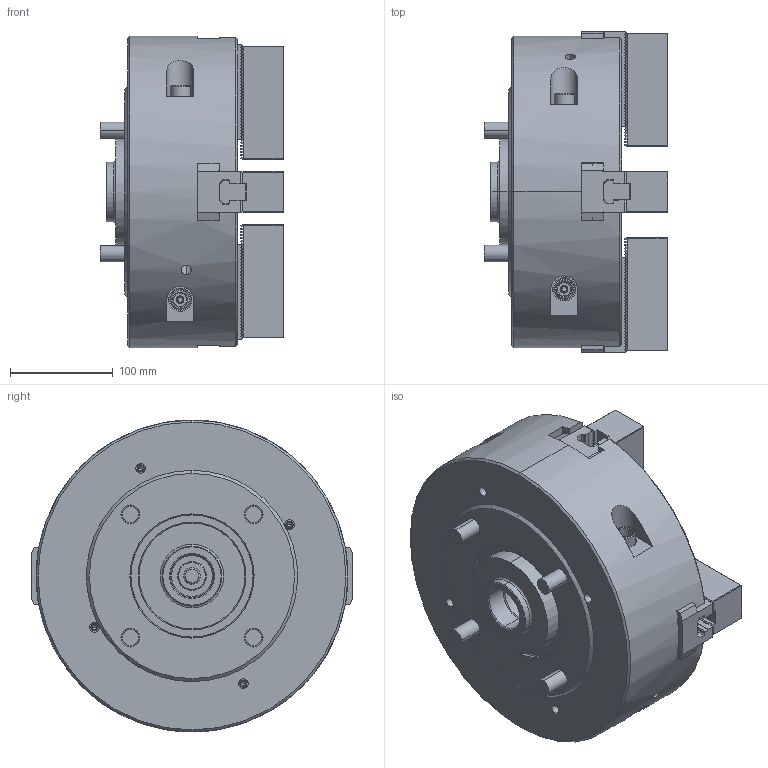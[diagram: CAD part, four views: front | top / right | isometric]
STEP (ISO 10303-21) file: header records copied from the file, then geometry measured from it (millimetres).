
FILE_DESCRIPTION (( 'STEP AP214' ), '1' );
FILE_NAME ('HW-12 61P2759870 ASSY_UC.STEP', '2023-10-13T02:19:28', ( '' ), ( '' ), 'SwSTEP 2.0', 'SolidWorks 2022', '' );
FILE_SCHEMA (( 'AUTOMOTIVE_DESIGN' ));
Length unit declared in the file: millimetre
Products named in the file (7): Ｂアナツキ M12x35_Bｱﾅﾂｷ M12X35; HW-12_BASE^61P275987-0_HW-12 ASSY_ﾃﾞﾌｫﾙﾄ; 61P400852_Ｔナット_ﾃﾞﾌｫﾙﾄ; HW-12 61P2759870 ASSY_UC; 61P335563-4_MASTER JAW 2-4_ﾃﾞﾌｫﾙﾄ; 61P322999_ソフトジョー_ﾃﾞﾌｫﾙﾄ; 61P335562-3_MASTER JAW 1-3_ﾃﾞﾌｫﾙﾄ
Assembly tree (21 placements, depth 2):
  HW-12 61P2759870 ASSY_UC
    61P335563-4_MASTER JAW 2-4_ﾃﾞﾌｫﾙﾄ  x2
    61P335562-3_MASTER JAW 1-3_ﾃﾞﾌｫﾙﾄ  x2
    61P400852_Ｔナット_ﾃﾞﾌｫﾙﾄ  x4
    61P322999_ソフトジョー_ﾃﾞﾌｫﾙﾄ  x4
    Ｂアナツキ M12x35_Bｱﾅﾂｷ M12X35  x8
    HW-12_BASE^61P275987-0_HW-12 ASSY_ﾃﾞﾌｫﾙﾄ
Bounding box: 179 x 313.6 x 304 mm (x, y, z)
Volume: 8739751.2 mm3; surface area: 650278.8 mm2
Topology: 21 solids, 37 shells, 4208 faces, 11646 edges, 7596 vertices
Faces by surface type: plane 3193, cylinder 612, cone 260, bspline 83, torus 60
Entity records: 76757 total; most frequent: CARTESIAN_POINT 17485, ORIENTED_EDGE 12476, DIRECTION 11510, EDGE_CURVE 6238, LINE 4764, VECTOR 4764, VERTEX_POINT 4046, AXIS2_PLACEMENT_3D 3373
